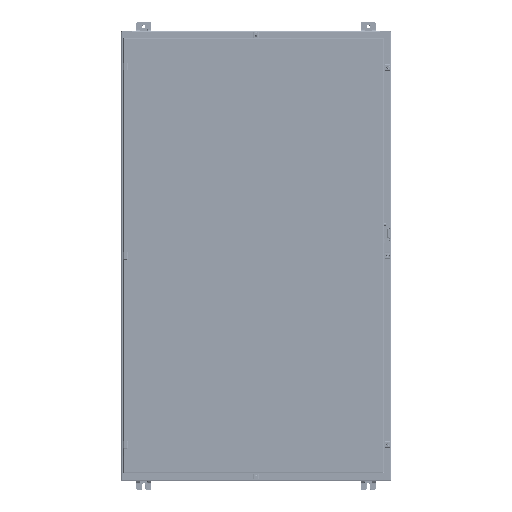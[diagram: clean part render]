
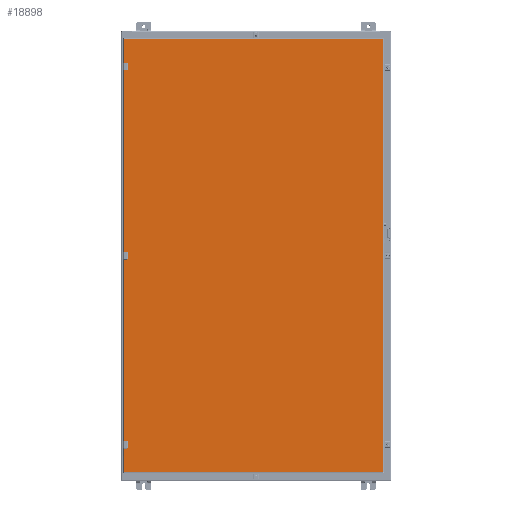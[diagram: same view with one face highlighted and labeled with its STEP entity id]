
A CAD part, top view. The second image highlights one B-rep face of the part: STEP entity #18898.
In plain terms, the highlighted planar face has unit normal (0, 0, 1) as drawn and (0, 1, 0) by its records, which use the part's own axes.
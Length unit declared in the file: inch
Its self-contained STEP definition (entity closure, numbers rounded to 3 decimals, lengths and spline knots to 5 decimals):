
#14116=DIRECTION('',(0.,0.,1.));
#14117=VECTOR('',#14116,34.566);
#14118=CARTESIAN_POINT('',(-28.91438,0.,0.117));
#14119=LINE('',#14118,#14117);
#14194=DIRECTION('',(0.,0.,-1.));
#14195=VECTOR('',#14194,0.3629);
#14196=CARTESIAN_POINT('',(25.59513,0.,34.683));
#14197=LINE('',#14196,#14195);
#14201=DIRECTION('',(-1.,0.,0.));
#14202=VECTOR('',#14201,0.63);
#14203=CARTESIAN_POINT('',(25.56513,0.,34.2901));
#14204=LINE('',#14203,#14202);
#14208=DIRECTION('',(0.,0.,-1.));
#14209=VECTOR('',#14208,0.3629);
#14210=CARTESIAN_POINT('',(24.90513,0.,34.683));
#14211=LINE('',#14210,#14209);
#14215=DIRECTION('',(0.,0.,-1.));
#14216=VECTOR('',#14215,0.3629);
#14217=CARTESIAN_POINT('',(0.345,0.,34.683));
#14218=LINE('',#14217,#14216);
#14222=DIRECTION('',(-1.,0.,0.));
#14223=VECTOR('',#14222,0.63);
#14224=CARTESIAN_POINT('',(0.315,0.,34.2901));
#14225=LINE('',#14224,#14223);
#14229=DIRECTION('',(0.,0.,-1.));
#14230=VECTOR('',#14229,0.3629);
#14231=CARTESIAN_POINT('',(-0.345,0.,34.683));
#14232=LINE('',#14231,#14230);
#14236=DIRECTION('',(0.,0.,-1.));
#14237=VECTOR('',#14236,0.3629);
#14238=CARTESIAN_POINT('',(-24.90513,0.,34.683));
#14239=LINE('',#14238,#14237);
#14243=DIRECTION('',(-1.,0.,0.));
#14244=VECTOR('',#14243,0.63);
#14245=CARTESIAN_POINT('',(-24.93513,0.,34.2901));
#14246=LINE('',#14245,#14244);
#14250=DIRECTION('',(0.,0.,-1.));
#14251=VECTOR('',#14250,0.3629);
#14252=CARTESIAN_POINT('',(-25.59513,0.,34.683));
#14253=LINE('',#14252,#14251);
#14257=DIRECTION('',(0.,0.,1.));
#14258=VECTOR('',#14257,34.566);
#14259=CARTESIAN_POINT('',(28.91438,0.,0.117));
#14260=LINE('',#14259,#14258);
#14424=DIRECTION('',(-1.,0.,0.));
#14425=VECTOR('',#14424,57.82875);
#14426=CARTESIAN_POINT('',(28.91438,0.,0.117));
#14427=LINE('',#14426,#14425);
#16106=DIRECTION('',(-1.,0.,0.));
#16107=VECTOR('',#16106,24.56013);
#16108=CARTESIAN_POINT('',(24.90513,0.,34.683));
#16109=LINE('',#16108,#16107);
#16151=DIRECTION('',(-1.,0.,0.));
#16152=VECTOR('',#16151,24.56013);
#16153=CARTESIAN_POINT('',(-0.345,0.,34.683));
#16154=LINE('',#16153,#16152);
#16192=DIRECTION('',(-1.,0.,0.));
#16193=VECTOR('',#16192,3.31925);
#16194=CARTESIAN_POINT('',(-25.59513,0.,34.683));
#16195=LINE('',#16194,#16193);
#16229=DIRECTION('',(-1.,0.,0.));
#16230=VECTOR('',#16229,3.31925);
#16231=CARTESIAN_POINT('',(28.91438,0.,34.683));
#16232=LINE('',#16231,#16230);
#16250=CARTESIAN_POINT('',(24.93513,0.,34.3201));
#16251=DIRECTION('',(0.,-1.,0.));
#16252=DIRECTION('',(-1.,0.,0.));
#16253=AXIS2_PLACEMENT_3D('',#16250,#16251,#16252);
#16280=CARTESIAN_POINT('',(25.56513,0.,34.3201));
#16281=DIRECTION('',(0.,-1.,0.));
#16282=DIRECTION('',(0.,0.,-1.));
#16283=AXIS2_PLACEMENT_3D('',#16280,#16281,#16282);
#16828=CARTESIAN_POINT('',(-0.315,0.,34.3201));
#16829=DIRECTION('',(0.,-1.,0.));
#16830=DIRECTION('',(-1.,0.,0.));
#16831=AXIS2_PLACEMENT_3D('',#16828,#16829,#16830);
#16858=CARTESIAN_POINT('',(0.315,0.,34.3201));
#16859=DIRECTION('',(0.,-1.,0.));
#16860=DIRECTION('',(0.,0.,-1.));
#16861=AXIS2_PLACEMENT_3D('',#16858,#16859,#16860);
#16948=CARTESIAN_POINT('',(-25.56513,0.,34.3201));
#16949=DIRECTION('',(0.,-1.,0.));
#16950=DIRECTION('',(-1.,0.,0.));
#16951=AXIS2_PLACEMENT_3D('',#16948,#16949,#16950);
#16978=CARTESIAN_POINT('',(-24.93513,0.,34.3201));
#16979=DIRECTION('',(0.,-1.,0.));
#16980=DIRECTION('',(0.,0.,-1.));
#16981=AXIS2_PLACEMENT_3D('',#16978,#16979,#16980);
#17795=CARTESIAN_POINT('',(28.91438,0.,0.117));
#17796=CARTESIAN_POINT('',(-28.91438,0.,0.117));
#17797=VERTEX_POINT('',#17795);
#17798=VERTEX_POINT('',#17796);
#18073=CARTESIAN_POINT('',(-28.91438,0.,34.683));
#18074=VERTEX_POINT('',#18073);
#18083=CARTESIAN_POINT('',(28.91438,0.,34.683));
#18085=VERTEX_POINT('',#18083);
#18276=CARTESIAN_POINT('',(-24.90513,0.,34.683));
#18278=VERTEX_POINT('',#18276);
#18280=CARTESIAN_POINT('',(-25.59513,0.,34.683));
#18282=VERTEX_POINT('',#18280);
#18292=CARTESIAN_POINT('',(25.59513,0.,34.683));
#18294=VERTEX_POINT('',#18292);
#18296=CARTESIAN_POINT('',(24.90513,0.,34.683));
#18298=VERTEX_POINT('',#18296);
#18308=CARTESIAN_POINT('',(0.345,0.,34.683));
#18310=VERTEX_POINT('',#18308);
#18312=CARTESIAN_POINT('',(-0.345,0.,34.683));
#18314=VERTEX_POINT('',#18312);
#18323=CARTESIAN_POINT('',(-25.59513,0.,34.3201));
#18325=VERTEX_POINT('',#18323);
#18327=CARTESIAN_POINT('',(-25.56513,0.,34.2901));
#18329=VERTEX_POINT('',#18327);
#18347=CARTESIAN_POINT('',(-24.93513,0.,34.2901));
#18349=VERTEX_POINT('',#18347);
#18351=CARTESIAN_POINT('',(-24.90513,0.,34.3201));
#18353=VERTEX_POINT('',#18351);
#18355=CARTESIAN_POINT('',(24.90513,0.,34.3201));
#18357=VERTEX_POINT('',#18355);
#18359=CARTESIAN_POINT('',(24.93513,0.,34.2901));
#18361=VERTEX_POINT('',#18359);
#18379=CARTESIAN_POINT('',(25.56513,0.,34.2901));
#18381=VERTEX_POINT('',#18379);
#18383=CARTESIAN_POINT('',(25.59513,0.,34.3201));
#18385=VERTEX_POINT('',#18383);
#18387=CARTESIAN_POINT('',(-0.345,0.,34.3201));
#18389=VERTEX_POINT('',#18387);
#18391=CARTESIAN_POINT('',(-0.315,0.,34.2901));
#18393=VERTEX_POINT('',#18391);
#18411=CARTESIAN_POINT('',(0.315,0.,34.2901));
#18413=VERTEX_POINT('',#18411);
#18415=CARTESIAN_POINT('',(0.345,0.,34.3201));
#18417=VERTEX_POINT('',#18415);
#18848=CARTESIAN_POINT('',(29.03138,0.,0.));
#18849=DIRECTION('',(0.,1.,0.));
#18850=DIRECTION('',(-1.,0.,0.));
#18851=AXIS2_PLACEMENT_3D('',#18848,#18849,#18850);
#18852=PLANE('',#18851);
#18854=ORIENTED_EDGE('',*,*,#18853,.T.);
#18856=ORIENTED_EDGE('',*,*,#18855,.T.);
#18858=ORIENTED_EDGE('',*,*,#18857,.T.);
#18860=ORIENTED_EDGE('',*,*,#18859,.F.);
#18862=ORIENTED_EDGE('',*,*,#18861,.T.);
#18864=ORIENTED_EDGE('',*,*,#18863,.F.);
#18866=ORIENTED_EDGE('',*,*,#18865,.F.);
#18868=ORIENTED_EDGE('',*,*,#18867,.T.);
#18870=ORIENTED_EDGE('',*,*,#18869,.T.);
#18872=ORIENTED_EDGE('',*,*,#18871,.F.);
#18874=ORIENTED_EDGE('',*,*,#18873,.T.);
#18876=ORIENTED_EDGE('',*,*,#18875,.F.);
#18878=ORIENTED_EDGE('',*,*,#18877,.F.);
#18880=ORIENTED_EDGE('',*,*,#18879,.T.);
#18882=ORIENTED_EDGE('',*,*,#18881,.T.);
#18884=ORIENTED_EDGE('',*,*,#18883,.F.);
#18886=ORIENTED_EDGE('',*,*,#18885,.T.);
#18888=ORIENTED_EDGE('',*,*,#18887,.F.);
#18890=ORIENTED_EDGE('',*,*,#18889,.F.);
#18892=ORIENTED_EDGE('',*,*,#18891,.T.);
#18893=ORIENTED_EDGE('',*,*,#18838,.F.);
#18895=ORIENTED_EDGE('',*,*,#18894,.F.);
#18896=EDGE_LOOP('',(#18854,#18856,#18858,#18860,#18862,#18864,#18866,#18868,
#18870,#18872,#18874,#18876,#18878,#18880,#18882,#18884,#18886,#18888,#18890,
#18892,#18893,#18895));
#18897=FACE_OUTER_BOUND('',#18896,.F.);
#16254=CIRCLE('',#16253,0.03);
#16284=CIRCLE('',#16283,0.03);
#16832=CIRCLE('',#16831,0.03);
#16862=CIRCLE('',#16861,0.03);
#16952=CIRCLE('',#16951,0.03);
#16982=CIRCLE('',#16981,0.03);
#18838=EDGE_CURVE('',#17798,#18074,#14119,.T.);
#18853=EDGE_CURVE('',#17797,#18085,#14260,.T.);
#18855=EDGE_CURVE('',#18085,#18294,#16232,.T.);
#18857=EDGE_CURVE('',#18294,#18385,#14197,.T.);
#18859=EDGE_CURVE('',#18381,#18385,#16284,.T.);
#18861=EDGE_CURVE('',#18381,#18361,#14204,.T.);
#18863=EDGE_CURVE('',#18357,#18361,#16254,.T.);
#18865=EDGE_CURVE('',#18298,#18357,#14211,.T.);
#18867=EDGE_CURVE('',#18298,#18310,#16109,.T.);
#18869=EDGE_CURVE('',#18310,#18417,#14218,.T.);
#18871=EDGE_CURVE('',#18413,#18417,#16862,.T.);
#18873=EDGE_CURVE('',#18413,#18393,#14225,.T.);
#18875=EDGE_CURVE('',#18389,#18393,#16832,.T.);
#18877=EDGE_CURVE('',#18314,#18389,#14232,.T.);
#18879=EDGE_CURVE('',#18314,#18278,#16154,.T.);
#18881=EDGE_CURVE('',#18278,#18353,#14239,.T.);
#18883=EDGE_CURVE('',#18349,#18353,#16982,.T.);
#18885=EDGE_CURVE('',#18349,#18329,#14246,.T.);
#18887=EDGE_CURVE('',#18325,#18329,#16952,.T.);
#18889=EDGE_CURVE('',#18282,#18325,#14253,.T.);
#18891=EDGE_CURVE('',#18282,#18074,#16195,.T.);
#18894=EDGE_CURVE('',#17797,#17798,#14427,.T.);
#18898=ADVANCED_FACE('',(#18897),#18852,.T.);
